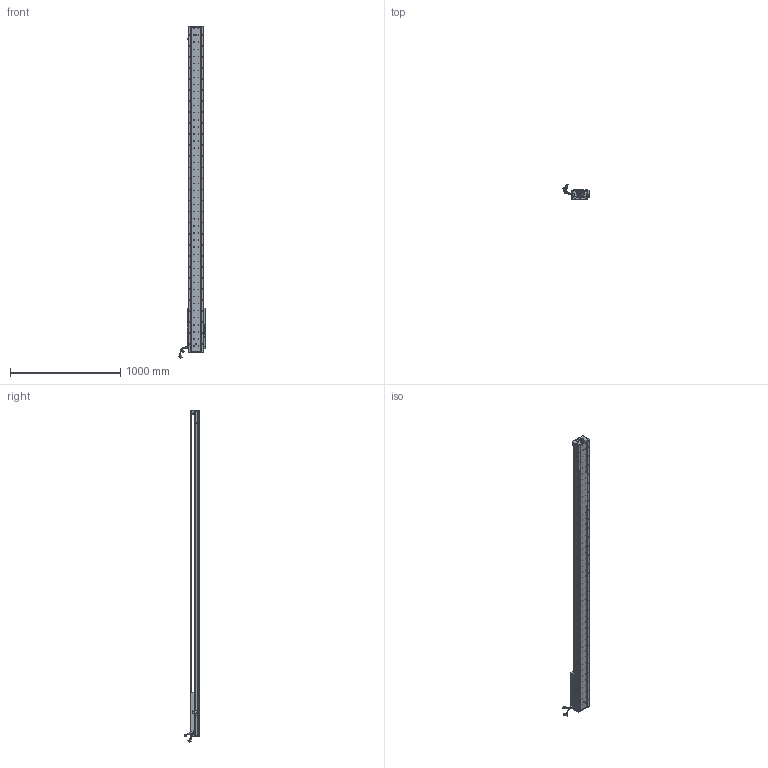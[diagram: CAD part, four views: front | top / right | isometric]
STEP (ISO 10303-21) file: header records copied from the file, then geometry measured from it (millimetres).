
FILE_DESCRIPTION (( 'STEP AP203' ), '1' );
FILE_NAME ('Z5-RY140D-1-L500-B-K.SLDASM_2500.step', '2021-05-17T08:40:25', ( '盈信电脑' ), ( '东莞市道滘镇水果街19号' ), 'SwSTEP 2.0', 'SolidWorks 2016', '' );
FILE_SCHEMA (( 'CONFIG_CONTROL_DESIGN' ));
Length unit declared in the file: millimetre
Products named in the file (36): COVER-Part-1; 080黍杅芛假蚾釱21遴; HARNESS-Part-2; 詩湍狟揤裔; PSLH080_PSLF2; 詩湍奻揤裔; Z5-RY140圉猾敕臏賑輸(21遴); LABEL; Z-140詩湍傷裔啣; 覜茼ん672; Z5-RY140-L500詩湍100mm遵_2500; 榋妏寠巭燃_暯_M2_2; Z5-RY140D-1-L500-B-K.SLDASM_2500; LABEL-Part-1; SCREW-M1.7; SHIELDPLATE; HARNESS; HARNESS-Part-1; HOLDER0; SCREW-M1.6-3; PBU_SHEET; SCREW-M1.6; SEAL; SCALE; 140蚥薯蝶輸; SCALE-Part-2; SEAL-Part-1; Z-RY140感应器672光电感应片; COVER; SCREW-M1.6-1; 140-Z-臏賑輸盄裔(21遴); 140雄赽晤鎢ん堤盄; SCREW-M1.7-1; Z5-RY140-L500直线电机模组底座_2500; SCALE-Part-1; SCREW-M1.6-2
Assembly tree (41 placements, depth 4):
  Z5-RY140D-1-L500-B-K.SLDASM_2500
    Z5-RY140-L500直线电机模组底座_2500
    Z-RY140感应器672光电感应片
    Z5-RY140圉猾敕臏賑輸(21遴)
    覜茼ん672  x3
    Z5-RY140-L500詩湍100mm遵_2500
    PSLH080_PSLF2
      SCALE
        SCALE-Part-1
        SCALE-Part-2
      HARNESS
        HARNESS-Part-1
        HARNESS-Part-2
      LABEL
        LABEL-Part-1
      COVER
        COVER-Part-1
      SEAL
        SEAL-Part-1
      榋妏寠巭燃_暯_M2_2
      SHIELDPLATE
      SCREW-M1.7
      SCREW-M1.7-1
      PBU_SHEET
      SCREW-M1.6
      SCREW-M1.6-1
      SCREW-M1.6-2
      SCREW-M1.6-3
      HOLDER0
    080黍杅芛假蚾釱21遴
    140-Z-臏賑輸盄裔(21遴)
    Z-140詩湍傷裔啣  x2
    詩湍狟揤裔  x2
    詩湍奻揤裔  x2
    140蚥薯蝶輸  x2
    140雄赽晤鎢ん堤盄
Bounding box: 239.79 x 143.88 x 3005.87 mm (x, y, z)
Volume: 9898968.8 mm3; surface area: 2541416.5 mm2
Topology: 36 solids, 36 shells, 4412 faces, 12044 edges, 7633 vertices
Faces by surface type: cylinder 2442, plane 1422, cone 426, torus 69, bspline 53
Entity records: 141408 total; most frequent: CARTESIAN_POINT 40213, ORIENTED_EDGE 20960, DIRECTION 19344, EDGE_CURVE 10480, AXIS2_PLACEMENT_3D 7228, VERTEX_POINT 6801, LINE 4888, VECTOR 4888
